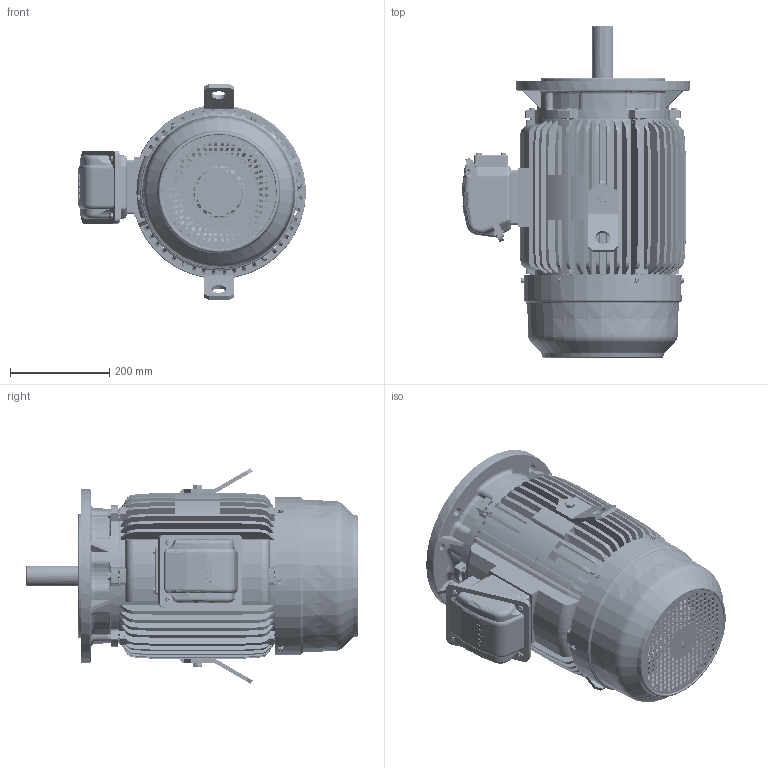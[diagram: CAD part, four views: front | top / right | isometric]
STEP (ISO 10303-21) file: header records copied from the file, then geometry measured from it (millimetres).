
FILE_DESCRIPTION(('CATIA V5 STEP Exchange'),'2;1');
FILE_NAME('D:\3D 外形圖\傳送單KD9002-01\3D外型圖-AEHB-T箱有LOGO\160L\立式\160L-V_AllCATPart.stp','2009-10-20T05:08:25+00:00',('none'),('none'),'CATIA Version 5 Release 19 SP 5 (IN-10)','CATIA V5 STEP AP203','none');
FILE_SCHEMA(('CONFIG_CONTROL_DESIGN'));
Length unit declared in the file: millimetre
Products named in the file (1): 160L-V_AllCATPart
Bounding box: 458.09 x 668 x 434.21 mm (x, y, z)
Volume: 10667385.3 mm3; surface area: 2846166.4 mm2
Topology: 47 solids, 47 shells, 6815 faces, 19311 edges, 12684 vertices
Faces by surface type: plane 3210, cylinder 1782, torus 839, cone 674, bspline 282, sphere 28
Entity records: 235738 total; most frequent: CARTESIAN_POINT 77796, ORIENTED_EDGE 38458, DIRECTION 22967, EDGE_CURVE 19229, VERTEX_POINT 12647, AXIS2_PLACEMENT_3D 10271, VECTOR 7941, LINE 7941
